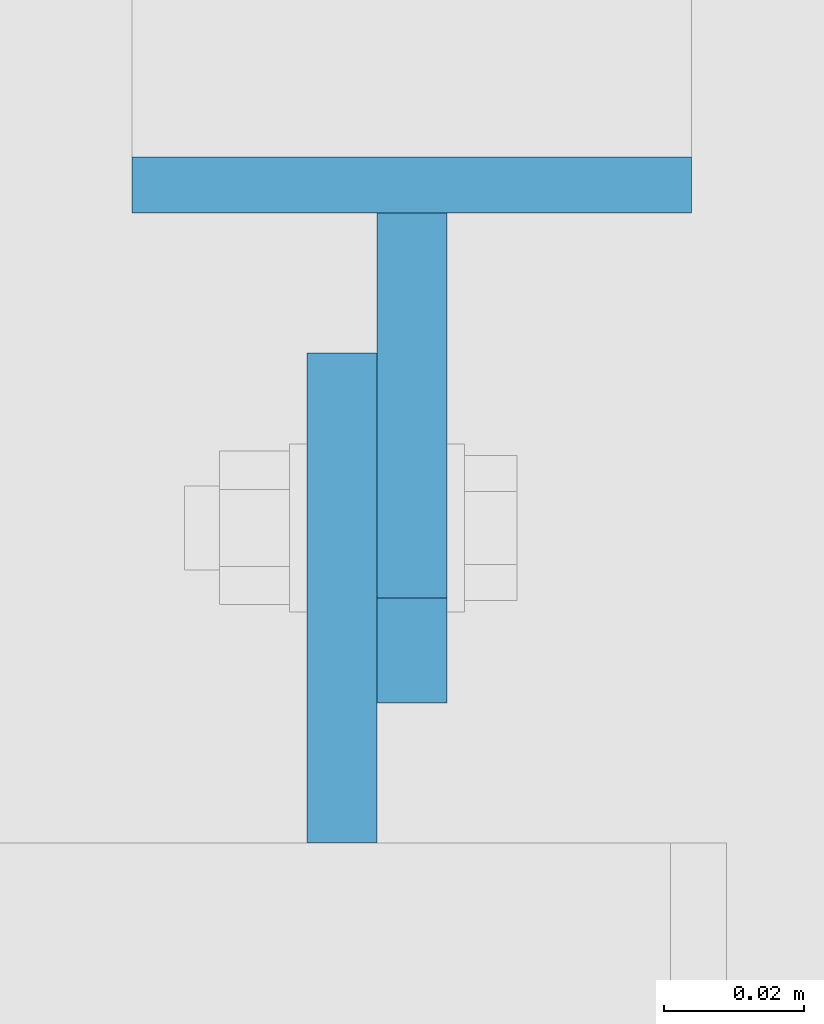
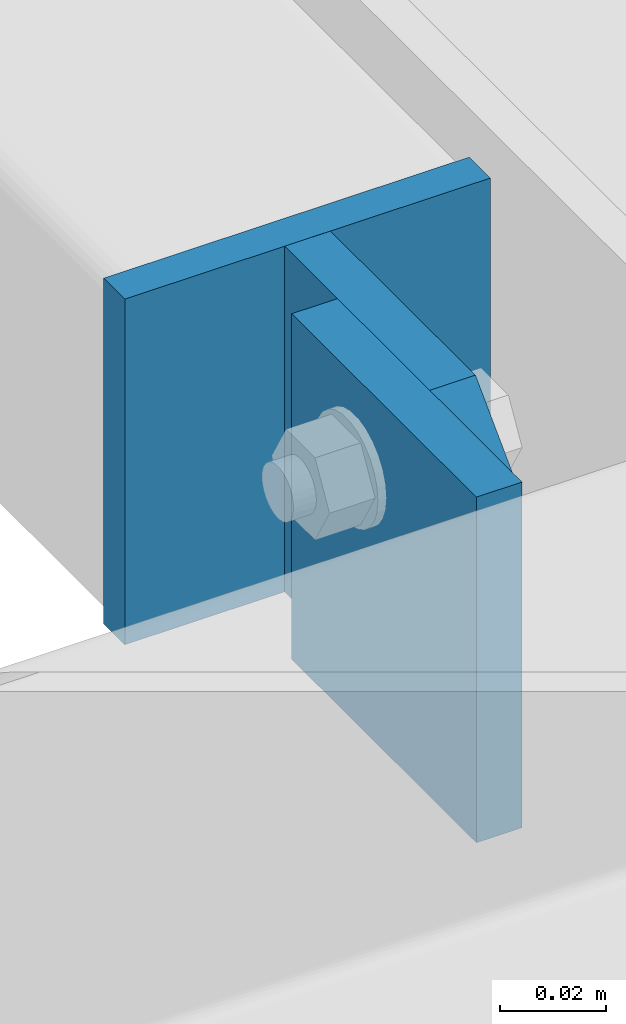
# One storey, part 119 of 271: 3 plates, 2 elements without a shape of their own.
"""IFC2X3 building model written with IfcOpenShell, lengths in millimetres."""

from ifc_helpers import new_model, si_unit, frame, origin_with_axes, place, context, subcontext, project, spatial, polyline, outline, extrude, material, type_object, element, aggregate, save


model = new_model("IFC2X3")

# Units and contexts
model_context = context("Model", 3, precision=1e-05, world=origin_with_axes())
body_context = subcontext(model_context, "Body", "Model", "MODEL_VIEW")
ifc_project = project(units=[si_unit("LENGTHUNIT", "METRE", prefix="MILLI"), si_unit("AREAUNIT", "SQUARE_METRE"), si_unit("VOLUMEUNIT", "CUBIC_METRE"), si_unit("MASSUNIT", "GRAM", prefix="KILO"), si_unit("TIMEUNIT", "SECOND"), si_unit("PLANEANGLEUNIT", "RADIAN"), si_unit("SOLIDANGLEUNIT", "STERADIAN"), si_unit("THERMODYNAMICTEMPERATUREUNIT", "DEGREE_CELSIUS"), si_unit("LUMINOUSINTENSITYUNIT", "LUMEN")], contexts=[model_context])

# Site, building, storey
site_placement = place(None, origin_with_axes())
site = spatial("IfcSite", under=ifc_project, at=site_placement, Name="Undefined", CompositionType="ELEMENT")
building_placement = place(site_placement, origin_with_axes())
building = spatial("IfcBuilding", under=site, at=building_placement, Name="Undefined", CompositionType="ELEMENT")
storey_placement = place(building_placement, origin_with_axes())
storey = spatial("IfcBuildingStorey", under=building, at=storey_placement, Name="Undefined", CompositionType="ELEMENT", Elevation=0.0)

# Assembly, plate
assembly_1_placement = place(storey_placement, origin_with_axes())
assembly_1 = element("IfcElementAssembly", 1, at=assembly_1_placement, inside=storey, AssemblyPlace="NOTDEFINED", PredefinedType="RIGID_FRAME")
ifc_material = material(Name="STEEL/S355JR")
plate_type_1 = type_object("IfcPlateType", Name="BL10*70", PredefinedType="NOTDEFINED")
plate_1_placement = place(assembly_1_placement, frame((6143.37568709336, 984.32498425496, 20204.3499999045), z_axis=(1.0, 0.0, 0.0), x_axis=(0.0, -0.707106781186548, -0.707106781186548)))
plate_1 = element("IfcPlate", 2, at=plate_1_placement, type_object=plate_type_1, material=ifc_material, Name="BLACHA", ObjectType="BL10*70", context=body_context, shape_type="SweptSolid", body=[
    extrude(outline(polyline([(0.0, 0.0), (21.2132034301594, 1.09139364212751e-11), (56.5685424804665, 35.3553390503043), (56.568542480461, 56.5685424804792), (17.6776695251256, 95.4594192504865), (-38.890872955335, 38.8908729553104), (0.0, 0.0)])), frame((0.0, 0.0, -5.0), z_axis=(0.0, 0.0, 1.0), x_axis=(1.0, 0.0, 0.0)), (0.0, 0.0, 1.0), 10.0),
])

assembly_2_placement = place(storey_placement, origin_with_axes())
assembly_2 = element("IfcElementAssembly", 3, at=assembly_2_placement, inside=storey, AssemblyPlace="NOTDEFINED", PredefinedType="RIGID_FRAME")
plate_2_placement = place(assembly_2_placement, frame((6133.37568709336, 949.32498425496, 20204.3499999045), z_axis=(1.0, 0.0, 0.0), x_axis=(0.0, 0.0, -1.0)))
plate_2 = element("IfcPlate", 4, at=plate_2_placement, type_object=plate_type_1, material=ifc_material, Name="BLACHA", ObjectType="BL10*70", context=body_context, shape_type="SweptSolid", body=[
    extrude(outline(polyline([(0.0, 0.0), (80.0, 0.0), (80.0, 70.0), (0.0, 70.0), (0.0, 0.0)])), frame((0.0, 0.0, -5.0), z_axis=(0.0, 0.0, 1.0), x_axis=(1.0, 0.0, 0.0)), (0.0, 0.0, 1.0), 10.0),
])
aggregate(assembly_2, [plate_2])

# Plate
plate_type_2 = type_object("IfcPlateType", Name="BL8*80", PredefinedType="NOTDEFINED")
plate_3_placement = place(assembly_1_placement, frame((6103.37568709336, 1043.32498425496, 20204.3499999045), z_axis=(0.0, -1.0, 0.0), x_axis=(0.0, 0.0, -1.0)))
plate_3 = element("IfcPlate", 5, at=plate_3_placement, type_object=plate_type_2, material=ifc_material, Name="BLACHA", ObjectType="BL8*80", context=body_context, shape_type="SweptSolid", body=[
    extrude(outline(polyline([(0.0, 0.0), (80.0, 0.0), (80.0, 80.0), (0.0, 80.0), (0.0, 0.0)])), frame((0.0, 0.0, -4.0), z_axis=(0.0, 0.0, 1.0), x_axis=(1.0, 0.0, 0.0)), (0.0, 0.0, 1.0), 8.0),
])

aggregate(assembly_1, [plate_3, plate_1])

save(model, "model.ifc")
